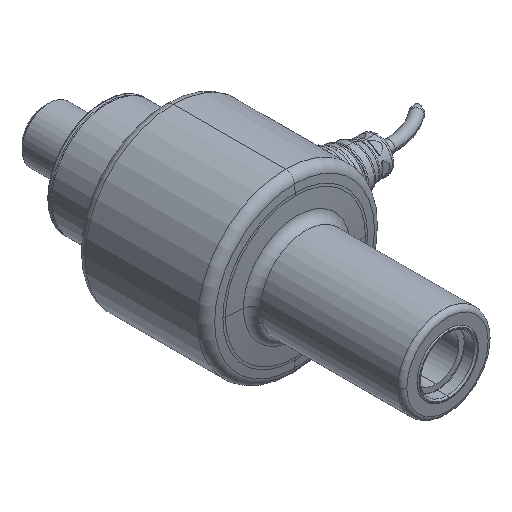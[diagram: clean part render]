
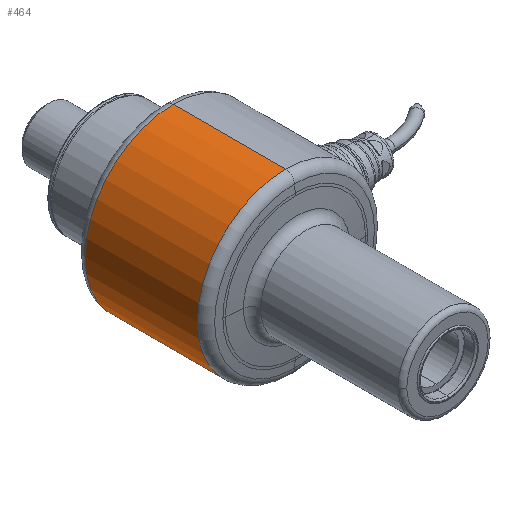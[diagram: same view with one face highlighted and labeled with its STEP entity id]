
A CAD part, isometric view. The second image highlights one B-rep face of the part: STEP entity #464.
In plain terms, the highlighted cylindrical face has radius 39 mm (diameter 78 mm), a partial arc.
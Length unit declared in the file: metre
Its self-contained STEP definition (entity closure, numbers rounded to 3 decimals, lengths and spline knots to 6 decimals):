
#464=ADVANCED_FACE('0:555',(#786),#787,.T.);
#786=FACE_OUTER_BOUND('',#1184,.T.);
#787=CYLINDRICAL_SURFACE('',#1185,0.039);
#1184=EDGE_LOOP('',(#2079,#2080,#2081,#2082));
#1185=AXIS2_PLACEMENT_3D('',#2083,#2084,#2085);
#2079=ORIENTED_EDGE('',*,*,#2789,.T.);
#2080=ORIENTED_EDGE('',*,*,#2810,.T.);
#2081=ORIENTED_EDGE('',*,*,#2791,.T.);
#2082=ORIENTED_EDGE('',*,*,#2813,.T.);
#2083=CARTESIAN_POINT('',(0.0,0.112,0.0));
#2084=DIRECTION('',(0.0,-1.0,0.0));
#2085=DIRECTION('',(0.0,0.0,1.0));
#2789=EDGE_CURVE('',#3262,#3263,#3264,.T.);
#2791=EDGE_CURVE('',#3267,#3265,#3268,.T.);
#2810=EDGE_CURVE('0:573',#3263,#3267,#3295,.T.);
#2813=EDGE_CURVE('0:582',#3265,#3262,#3298,.T.);
#3262=VERTEX_POINT('',#3871);
#3263=VERTEX_POINT('',#3872);
#3264=LINE('',#3873,#3874);
#3265=VERTEX_POINT('',#3875);
#3267=VERTEX_POINT('',#3877);
#3268=LINE('',#3878,#3879);
#3295=CIRCLE('',#4095,0.039);
#3298=CIRCLE('',#4098,0.039);
#3871=CARTESIAN_POINT('',(0.,0.015665,0.039));
#3872=CARTESIAN_POINT('',(0.,0.065335,0.039));
#3873=CARTESIAN_POINT('',(0.,0.0405,0.039));
#3874=VECTOR('',#4976,1.0);
#3875=CARTESIAN_POINT('',(0.,0.015665,-0.039));
#3877=CARTESIAN_POINT('',(0.,0.065335,-0.039));
#3878=CARTESIAN_POINT('',(0.,0.0405,-0.039));
#3879=VECTOR('',#4980,1.0);
#4095=AXIS2_PLACEMENT_3D('',#5011,#5012,#5013);
#4098=AXIS2_PLACEMENT_3D('',#5020,#5021,#5022);
#4976=DIRECTION('',(0.0,1.0,-0.0));
#4980=DIRECTION('',(0.0,-1.0,0.0));
#5011=CARTESIAN_POINT('',(0.0,0.065335,0.0));
#5012=DIRECTION('',(0.0,-1.0,0.0));
#5013=DIRECTION('',(0.0,0.0,-1.0));
#5020=CARTESIAN_POINT('',(0.0,0.015665,0.0));
#5021=DIRECTION('',(0.0,1.0,0.0));
#5022=DIRECTION('',(0.0,0.0,-1.0));
